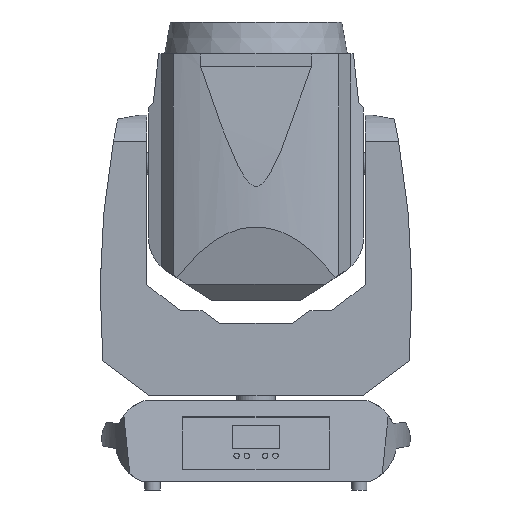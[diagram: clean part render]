
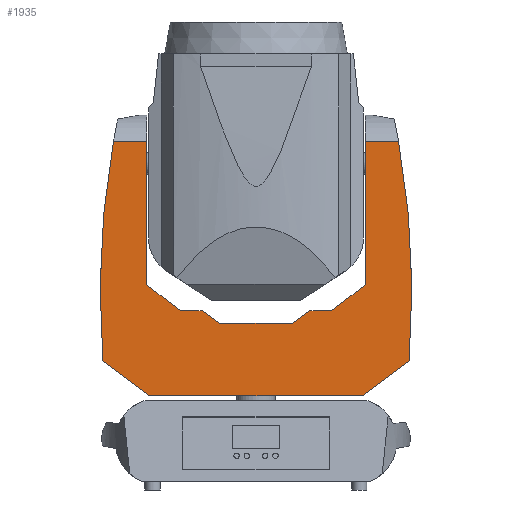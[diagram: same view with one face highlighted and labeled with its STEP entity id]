
A CAD part, left-side view. The second image highlights one B-rep face of the part: STEP entity #1935.
In plain terms, the highlighted planar face has unit normal (-1, 0, 0).
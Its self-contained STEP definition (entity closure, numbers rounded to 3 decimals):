
#54=CIRCLE('',#2183,874.28);
#55=CIRCLE('',#2184,874.28);
#123=LINE('',#3378,#281);
#126=LINE('',#3430,#284);
#140=LINE('',#3463,#298);
#142=LINE('',#3469,#300);
#143=LINE('',#3470,#301);
#144=LINE('',#3473,#302);
#145=LINE('',#3475,#303);
#146=LINE('',#3477,#304);
#147=LINE('',#3479,#305);
#148=LINE('',#3481,#306);
#149=LINE('',#3483,#307);
#150=LINE('',#3485,#308);
#151=LINE('',#3487,#309);
#152=LINE('',#3489,#310);
#281=VECTOR('',#2540,1000.);
#284=VECTOR('',#2553,1000.);
#298=VECTOR('',#2577,1000.);
#300=VECTOR('',#2583,1000.);
#301=VECTOR('',#2584,1000.);
#302=VECTOR('',#2587,1000.);
#303=VECTOR('',#2588,1000.);
#304=VECTOR('',#2589,1000.);
#305=VECTOR('',#2590,1000.);
#306=VECTOR('',#2591,1000.);
#307=VECTOR('',#2592,1000.);
#308=VECTOR('',#2593,1000.);
#309=VECTOR('',#2594,1000.);
#310=VECTOR('',#2595,1000.);
#487=PLANE('',#2182);
#783=ORIENTED_EDGE('',*,*,#1190,.F.);
#784=ORIENTED_EDGE('',*,*,#1191,.F.);
#785=ORIENTED_EDGE('',*,*,#1188,.F.);
#786=ORIENTED_EDGE('',*,*,#1192,.F.);
#787=ORIENTED_EDGE('',*,*,#1193,.F.);
#788=ORIENTED_EDGE('',*,*,#1171,.T.);
#789=ORIENTED_EDGE('',*,*,#1194,.F.);
#790=ORIENTED_EDGE('',*,*,#1195,.F.);
#791=ORIENTED_EDGE('',*,*,#1196,.F.);
#792=ORIENTED_EDGE('',*,*,#1197,.F.);
#793=ORIENTED_EDGE('',*,*,#1198,.F.);
#794=ORIENTED_EDGE('',*,*,#1199,.F.);
#795=ORIENTED_EDGE('',*,*,#1200,.F.);
#796=ORIENTED_EDGE('',*,*,#1201,.F.);
#797=ORIENTED_EDGE('',*,*,#1202,.F.);
#798=ORIENTED_EDGE('',*,*,#1160,.T.);
#1160=EDGE_CURVE('',#1392,#1393,#123,.T.);
#1171=EDGE_CURVE('',#1399,#1403,#126,.T.);
#1188=EDGE_CURVE('',#1417,#1418,#140,.T.);
#1190=EDGE_CURVE('',#1419,#1393,#54,.F.);
#1191=EDGE_CURVE('',#1418,#1419,#142,.T.);
#1192=EDGE_CURVE('',#1420,#1417,#143,.T.);
#1193=EDGE_CURVE('',#1399,#1420,#55,.F.);
#1194=EDGE_CURVE('',#1421,#1403,#144,.T.);
#1195=EDGE_CURVE('',#1422,#1421,#145,.T.);
#1196=EDGE_CURVE('',#1423,#1422,#146,.T.);
#1197=EDGE_CURVE('',#1424,#1423,#147,.T.);
#1198=EDGE_CURVE('',#1425,#1424,#148,.T.);
#1199=EDGE_CURVE('',#1426,#1425,#149,.T.);
#1200=EDGE_CURVE('',#1427,#1426,#150,.T.);
#1201=EDGE_CURVE('',#1428,#1427,#151,.T.);
#1202=EDGE_CURVE('',#1392,#1428,#152,.T.);
#1392=VERTEX_POINT('',#3379);
#1393=VERTEX_POINT('',#3380);
#1399=VERTEX_POINT('',#3414);
#1403=VERTEX_POINT('',#3429);
#1417=VERTEX_POINT('',#3462);
#1418=VERTEX_POINT('',#3464);
#1419=VERTEX_POINT('',#3468);
#1420=VERTEX_POINT('',#3471);
#1421=VERTEX_POINT('',#3474);
#1422=VERTEX_POINT('',#3476);
#1423=VERTEX_POINT('',#3478);
#1424=VERTEX_POINT('',#3480);
#1425=VERTEX_POINT('',#3482);
#1426=VERTEX_POINT('',#3484);
#1427=VERTEX_POINT('',#3486);
#1428=VERTEX_POINT('',#3488);
#1633=EDGE_LOOP('',(#783,#784,#785,#786,#787,#788,#789,#790,#791,#792,#793,
#794,#795,#796,#797,#798));
#1795=FACE_BOUND('',#1633,.T.);
#1935=ADVANCED_FACE('',(#1795),#487,.T.);
#2182=AXIS2_PLACEMENT_3D('',#3466,#2579,#2580);
#2183=AXIS2_PLACEMENT_3D('',#3467,#2581,#2582);
#2184=AXIS2_PLACEMENT_3D('',#3472,#2585,#2586);
#2540=DIRECTION('',(0.,1.,0.));
#2553=DIRECTION('',(0.,1.,0.));
#2577=DIRECTION('',(0.,1.,0.));
#2579=DIRECTION('',(-1.,0.,0.));
#2580=DIRECTION('',(0.,0.,1.));
#2581=DIRECTION('',(-1.,0.,0.));
#2582=DIRECTION('',(0.,0.,1.));
#2583=DIRECTION('',(0.,0.8,0.6));
#2584=DIRECTION('',(0.,0.8,-0.6));
#2585=DIRECTION('',(-1.,0.,0.));
#2586=DIRECTION('',(0.,0.,1.));
#2587=DIRECTION('',(0.,0.,1.));
#2588=DIRECTION('',(0.,-0.792,0.61));
#2589=DIRECTION('',(0.,-1.,0.));
#2590=DIRECTION('',(0.,-0.812,0.583));
#2591=DIRECTION('',(0.,-1.,0.));
#2592=DIRECTION('',(0.,-0.812,-0.583));
#2593=DIRECTION('',(0.,-1.,0.));
#2594=DIRECTION('',(0.,-0.792,-0.61));
#2595=DIRECTION('',(0.,0.,-1.));
#3378=CARTESIAN_POINT('',(-47.048,-182.591,344.915));
#3379=CARTESIAN_POINT('',(-47.048,111.996,344.915));
#3380=CARTESIAN_POINT('',(-47.048,146.175,344.915));
#3414=CARTESIAN_POINT('',(-47.048,-146.175,344.915));
#3429=CARTESIAN_POINT('',(-47.048,-111.996,344.915));
#3430=CARTESIAN_POINT('',(-47.048,-182.591,344.915));
#3462=CARTESIAN_POINT('',(-47.048,-108.743,83.948));
#3463=CARTESIAN_POINT('',(-47.048,-182.591,83.948));
#3464=CARTESIAN_POINT('',(-47.048,108.743,83.948));
#3466=CARTESIAN_POINT('',(-47.048,-182.591,83.948));
#3467=CARTESIAN_POINT('',(-47.048,-714.371,190.559));
#3468=CARTESIAN_POINT('',(-47.048,157.072,120.195));
#3469=CARTESIAN_POINT('',(-47.048,-77.71,-55.892));
#3470=CARTESIAN_POINT('',(-47.048,-156.005,119.395));
#3471=CARTESIAN_POINT('',(-47.048,-157.072,120.195));
#3472=CARTESIAN_POINT('',(-47.048,714.371,190.559));
#3473=CARTESIAN_POINT('',(-47.048,-111.996,83.948));
#3474=CARTESIAN_POINT('',(-47.048,-111.996,197.801));
#3475=CARTESIAN_POINT('',(-47.048,-101.262,189.533));
#3476=CARTESIAN_POINT('',(-47.048,-77.608,171.313));
#3477=CARTESIAN_POINT('',(-47.048,-182.591,171.313));
#3478=CARTESIAN_POINT('',(-47.048,-55.302,171.313));
#3479=CARTESIAN_POINT('',(-47.048,-97.907,201.901));
#3480=CARTESIAN_POINT('',(-47.048,-37.178,158.301));
#3481=CARTESIAN_POINT('',(-47.048,-182.591,158.301));
#3482=CARTESIAN_POINT('',(-47.048,37.178,158.301));
#3483=CARTESIAN_POINT('',(-47.048,-143.065,28.895));
#3484=CARTESIAN_POINT('',(-47.048,55.302,171.313));
#3485=CARTESIAN_POINT('',(-47.048,-182.591,171.313));
#3486=CARTESIAN_POINT('',(-47.048,77.608,171.313));
#3487=CARTESIAN_POINT('',(-47.048,-127.934,12.99));
#3488=CARTESIAN_POINT('',(-47.048,111.996,197.801));
#3489=CARTESIAN_POINT('',(-47.048,111.996,83.948));
